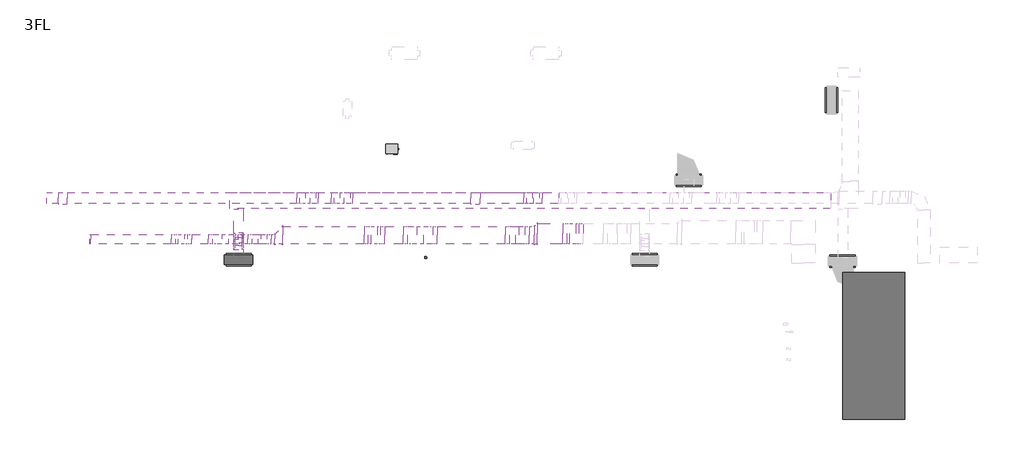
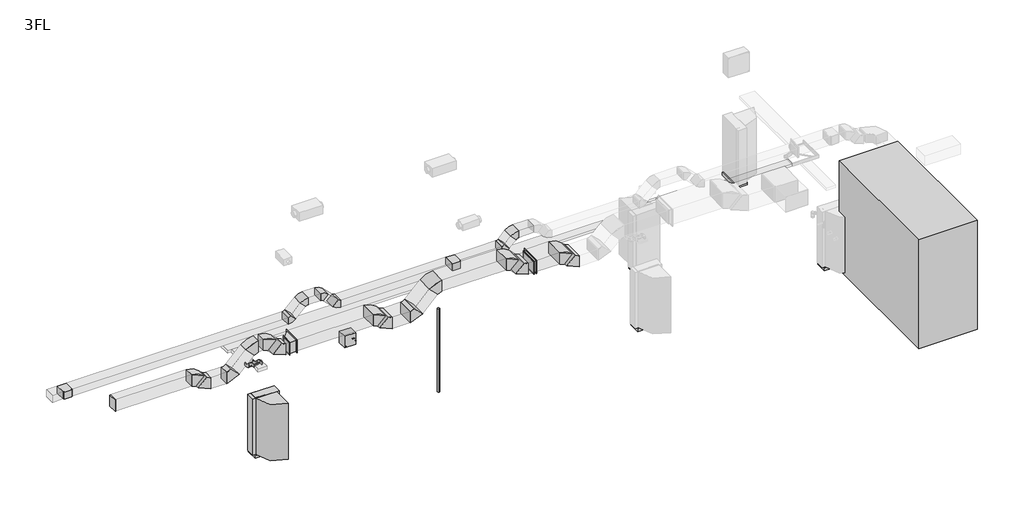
# One storey, part 1 of 2: 25 duct fittings, 25 duct segments, 7 proxies, 4 cable carrier segments, 2 cable carrier fittings, 1 electric distribution board, 1 pipe segment, 1 sanitary terminal.
"""IFC4 building model written with IfcOpenShell, lengths in millimetres."""

from ifc_helpers import new_model, si_unit, point, frame, frame_2d, origin, place, context, project, spatial, polyline, circle_curve, trimmed, segment, composite_curve, outline, extrude, transform, mapped, element, save
from components import specialty_equipment_491e8242, specialty_equipment_278ae101, specialty_equipment_f236d95e, cable_carrier_fitting_edf0bd9d, cable_carrier_fitting_9c4a5b13, common_d19d567b, common_31d43736, common_1_0_w_334f4966, common_1_0_w_7135a4aa, common_1_0_w_6671b1d5, common_1_0_w_68f2167f, common_45_deg_045d3efe, common_45_deg_b0ac0206, electric_distribution_board_7d68dc5e, sanitary_terminal_20l_5d2d8bf7

model = new_model("IFC4")

# Units and contexts
model_context = context("Model", 3, world=origin())
ifc_project = project(units=[si_unit("LENGTHUNIT", "METRE", prefix="MILLI")], contexts=[model_context])

# Site, building, storey
site = spatial("IfcSite", under=ifc_project)
building = spatial("IfcBuilding", under=site)
storey = spatial("IfcBuildingStorey", under=building, Name="3FL", Elevation=8200.0)

# Proxies
placement = place(None, origin())
specialty_equipment_shape = specialty_equipment_491e8242(model_context)
element("IfcBuildingElementProxy", 1, Name="機械基礎(電気) : 機械基礎(電気)", ObjectType="機械基礎(電気) : 機械基礎(電気)", at=placement, inside=storey, context=model_context, shape_type="MappedRepresentation", body=[
    mapped(specialty_equipment_shape, transform((7976.054693, 13290.0, 8200.0), x_axis=(1.0, 0.0, 0.0), y_axis=(0.0, 1.0, 0.0), z_axis=(0.0, 0.0, 1.0))),
])
element("IfcBuildingElementProxy", 2, Name="機械基礎(電気) : 機械基礎(電気)", ObjectType="機械基礎(電気) : 機械基礎(電気)", at=placement, inside=storey, context=model_context, shape_type="MappedRepresentation", body=[
    mapped(specialty_equipment_shape, transform((20943.221875, 13290.0, 8200.0), x_axis=(1.0, 0.0, 0.0), y_axis=(0.0, 1.0, 0.0), z_axis=(0.0, 0.0, 1.0))),
])
element("IfcBuildingElementProxy", 3, Name="機械基礎(電気) : 機械基礎(電気)", ObjectType="機械基礎(電気) : 機械基礎(電気)", at=placement, inside=storey, context=model_context, shape_type="MappedRepresentation", body=[
    mapped(specialty_equipment_shape, transform((22340.0, 15828.4000135, 8200.0), x_axis=(-1.0, 0.0, 0.0), y_axis=(0.0, -1.0, 0.0), z_axis=(0.0, 0.0, 1.0))),
])
element("IfcBuildingElementProxy", 4, Name="機械基礎(電気) : 機械基礎(電気)", ObjectType="機械基礎(電気) : 機械基礎(電気)", at=placement, inside=storey, context=model_context, shape_type="MappedRepresentation", body=[
    mapped(specialty_equipment_shape, transform((26900.0, 18391.8647061, 8200.0), x_axis=(0.0, 1.0, 0.0), y_axis=(-1.0, 0.0, 0.0), z_axis=(0.0, 0.0, 1.0))),
])
element("IfcBuildingElementProxy", 5, Name="機械基礎(電気) : 機械基礎(電気)", ObjectType="機械基礎(電気) : 機械基礎(電気)", at=placement, inside=storey, context=model_context, shape_type="MappedRepresentation", body=[
    mapped(specialty_equipment_shape, transform((27251.5347452, 13239.3406888, 8200.0), x_axis=(1.0, 0.0, 0.0), y_axis=(0.0, 1.0, 0.0), z_axis=(0.0, 0.0, 1.0))),
])
specialty_equipment_2_shape = specialty_equipment_278ae101(model_context)
element("IfcBuildingElementProxy", 6, Name="機械基礎 : 機械基礎", ObjectType="機械基礎 : 機械基礎", at=placement, inside=storey, context=model_context, shape_type="MappedRepresentation", body=[
    mapped(specialty_equipment_2_shape, transform((28500.0, 10740.0, 8200.0), x_axis=(0.0, -1.0, 0.0), y_axis=(1.0, 0.0, 0.0), z_axis=(0.0, 0.0, 1.0))),
])
specialty_equipment_3_shape = specialty_equipment_f236d95e(model_context)
element("IfcBuildingElementProxy", 7, Name="サービススペース : サービススペース", ObjectType="サービススペース : サービススペース", at=placement, inside=storey, context=model_context, shape_type="MappedRepresentation", body=[
    mapped(specialty_equipment_3_shape, transform((28250.0, 10540.0, 10156.0), x_axis=(0.0, -1.0, 0.0), y_axis=(1.0, 0.0, 0.0), z_axis=(0.0, 0.0, 1.0))),
])

# Cable carrier fittings
cable_carrier_fitting_shape = cable_carrier_fitting_edf0bd9d(model_context)
element("IfcCableCarrierFitting", 8, ObjectType="Common_はしご垂直内側曲げ : 03 強電_低圧", at=placement, inside=storey, context=model_context, shape_type="MappedRepresentation", body=[
    mapped(cable_carrier_fitting_shape, transform((7976.054693, 14010.0, 10850.0), x_axis=(0.0, 0.7071067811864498, -0.7071067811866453), y_axis=(0.0, 0.7071067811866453, 0.7071067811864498), z_axis=(1.0, 0.0, 0.0))),
])
cable_carrier_fitting_2_shape = cable_carrier_fitting_9c4a5b13(model_context)
element("IfcCableCarrierFitting", 9, ObjectType="Common_はしご垂直外側曲げ : 03 強電_低圧", at=placement, inside=storey, context=model_context, shape_type="MappedRepresentation", body=[
    mapped(cable_carrier_fitting_2_shape, transform((7976.054693, 13760.0, 11100.0), x_axis=(0.0, -0.7071067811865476, 0.7071067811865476), y_axis=(0.0, -0.7071067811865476, -0.7071067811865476), z_axis=(1.0, 0.0, 0.0))),
])

# Cable carrier segments
element("IfcCableCarrierSegment", 10, ObjectType="03 強電_低圧", at=placement, inside=storey, context=model_context, shape_type="SweptSolid", body=[
    extrude(outline(polyline([(8126.054693, 14147.9898987), (7826.054693, 14147.9898987), (7826.054693, 14910.0), (8126.054693, 14910.0), (8126.054693, 14147.9898987)])), frame((0.0, 0.0, 10800.0), z_axis=(0.0, 0.0, 1.0), x_axis=(1.0, 0.0, 0.0)), (0.0, 0.0, 1.0), 100.0),
])
element("IfcCableCarrierSegment", 11, ObjectType="03 強電_低圧", at=placement, inside=storey, context=model_context, shape_type="SweptSolid", body=[
    extrude(outline(polyline([(0.0, -300.0), (0.0, 0.0), (77.5735931, 0.0), (77.5735931, -300.0), (0.0, -300.0)])), frame((8126.054693, 13877.0710678, 10912.2182541), z_axis=(0.0, 0.7071067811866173, 0.7071067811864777), x_axis=(0.0, -0.7071067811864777, 0.7071067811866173)), (0.0, 0.0, 1.0), 100.0),
])
element("IfcCableCarrierSegment", 12, ObjectType="03 強電_低圧", at=placement, inside=storey, context=model_context, shape_type="SweptSolid", body=[
    extrude(outline(polyline([(7826.054693, 13622.0101013), (8126.054693, 13622.0101013), (8126.054693, 13349.3323091), (7826.054693, 13349.3323091), (7826.054693, 13622.0101013)])), frame((0.0, 0.0, 11050.0), z_axis=(0.0, 0.0, 1.0), x_axis=(1.0, 0.0, 0.0)), (0.0, 0.0, 1.0), 100.0),
])
element("IfcCableCarrierSegment", 13, ObjectType="03 強電_低圧", at=placement, inside=storey, context=model_context, shape_type="SweptSolid", body=[
    extrude(outline(polyline([(26870.3826289, 15430.0), (26870.3826289, 14930.0), (7701.5748089, 14930.0), (7701.5748089, 15430.0), (26870.3826289, 15430.0)])), frame((0.0, 0.0, 10800.0), z_axis=(0.0, 0.0, 1.0), x_axis=(1.0, 0.0, 0.0)), (0.0, 0.0, 1.0), 100.0),
])

# Duct fittings
common_shape = common_d19d567b(model_context)
element("IfcDuctFitting", 14, ObjectType="081_角型エンドキャップ : Common", at=placement, inside=storey, context=model_context, shape_type="MappedRepresentation", body=[
    mapped(common_shape, transform((3254.3145751, 13950.0, 11175.0), x_axis=(-1.0, 0.0, 0.0), y_axis=(0.0, -1.0, 0.0), z_axis=(0.0, 0.0, 1.0))),
])
common_2_shape = common_31d43736(model_context)
element("IfcDuctFitting", 15, ObjectType="022_角形片側分岐 : Common", at=placement, inside=storey, context=model_context, shape_type="MappedRepresentation", body=[
    mapped(common_2_shape, transform((2364.375, 15255.0, 11125.0), x_axis=(1.0, 0.0, 0.0), y_axis=(0.0, 1.0, 0.0), z_axis=(0.0, 0.0, 1.0))),
])
element("IfcDuctFitting", 16, ObjectType="022_角形片側分岐 : Common", at=placement, inside=storey, context=model_context, shape_type="MappedRepresentation", body=[
    mapped(common_2_shape, transform((15534.375, 15255.0, 11125.0), x_axis=(1.0, 0.0, 0.0), y_axis=(0.0, 1.0, 0.0), z_axis=(0.0, 0.0, 1.0))),
])
common_1_0_w_shape = common_1_0_w_334f4966(model_context)
element("IfcDuctFitting", 17, ObjectType="011_角型エルボ - 半径 : Common 1.0 W", at=placement, inside=storey, context=model_context, shape_type="MappedRepresentation", body=[
    mapped(common_1_0_w_shape, transform((5988.3327707, 13950.0, 11175.0), x_axis=(-0.7071067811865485, 0.0, 0.7071067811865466), y_axis=(-0.7071067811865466, 0.0, -0.7071067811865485), z_axis=(0.0, -1.0, 0.0))),
])
element("IfcDuctFitting", 18, ObjectType="011_角型エルボ - 半径 : Common 1.0 W", at=placement, inside=storey, context=model_context, shape_type="MappedRepresentation", body=[
    mapped(common_1_0_w_shape, transform((6313.3327707, 13950.0, 10850.0), x_axis=(0.7071067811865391, 0.0, -0.707106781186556), y_axis=(0.707106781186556, 0.0, 0.7071067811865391), z_axis=(0.0, -1.0, 0.0))),
])
element("IfcDuctFitting", 19, ObjectType="011_角型エルボ - 半径 : Common 1.0 W", at=placement, inside=storey, context=model_context, shape_type="MappedRepresentation", body=[
    mapped(common_1_0_w_shape, transform((8854.9534735, 13950.0, 11175.0), x_axis=(-1.0, 0.0, 0.0), y_axis=(0.0, 0.0, 1.0), z_axis=(0.0, 1.0, 0.0))),
])
element("IfcDuctFitting", 20, ObjectType="011_角型エルボ - 半径 : Common 1.0 W", at=placement, inside=storey, context=model_context, shape_type="MappedRepresentation", body=[
    mapped(common_1_0_w_shape, transform((8429.9534735, 13950.0, 11600.0), x_axis=(-0.70710678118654, 0.0, 0.707106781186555), y_axis=(-0.707106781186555, 0.0, -0.70710678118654), z_axis=(0.0, -1.0, 0.0))),
])
element("IfcDuctFitting", 21, ObjectType="011_角型エルボ - 半径 : Common 1.0 W", at=placement, inside=storey, context=model_context, shape_type="MappedRepresentation", body=[
    mapped(common_1_0_w_shape, transform((7927.4719472, 13950.0, 11600.0), x_axis=(-1.0, 0.0, 0.0), y_axis=(0.0, 0.0, -1.0), z_axis=(0.0, -1.0, 0.0))),
])
element("IfcDuctFitting", 22, ObjectType="011_角型エルボ - 半径 : Common 1.0 W", at=placement, inside=storey, context=model_context, shape_type="MappedRepresentation", body=[
    mapped(common_1_0_w_shape, transform((7177.4719472, 13950.0, 10850.0), x_axis=(1.0, 0.0, 0.0), y_axis=(0.0, 0.0, 1.0), z_axis=(0.0, -1.0, 0.0))),
])
common_1_0_w_2_shape = common_1_0_w_7135a4aa(model_context)
element("IfcDuctFitting", 23, ObjectType="011_角型エルボ - 半径 : Common 1.0 W", at=placement, inside=storey, context=model_context, shape_type="MappedRepresentation", body=[
    mapped(common_1_0_w_2_shape, transform((18809.3145751, 14125.0, 10850.0), x_axis=(-1.0, 0.0, 0.0), y_axis=(0.0, 0.0, 1.0), z_axis=(0.0, 1.0, 0.0))),
])
element("IfcDuctFitting", 24, ObjectType="011_角型エルボ - 半径 : Common 1.0 W", at=placement, inside=storey, context=model_context, shape_type="MappedRepresentation", body=[
    mapped(common_1_0_w_2_shape, transform((18484.3145751, 14125.0, 11175.0), x_axis=(-0.7071067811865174, 0.0, 0.7071067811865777), y_axis=(-0.7071067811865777, 0.0, -0.7071067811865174), z_axis=(0.0, -1.0, 0.0))),
])
common_1_0_w_3_shape = common_1_0_w_6671b1d5(model_context)
element("IfcDuctFitting", 25, ObjectType="011_角型エルボ - 半径 : Common 1.0 W", at=placement, inside=storey, context=model_context, shape_type="MappedRepresentation", body=[
    mapped(common_1_0_w_3_shape, transform((13399.3733317, 14075.0, 10850.0), x_axis=(1.0, 0.0, 0.0), y_axis=(0.0, 0.0, 1.0), z_axis=(0.0, -1.0, 0.0))),
])
element("IfcDuctFitting", 26, ObjectType="011_角型エルボ - 半径 : Common 1.0 W", at=placement, inside=storey, context=model_context, shape_type="MappedRepresentation", body=[
    mapped(common_1_0_w_3_shape, transform((12471.4205038, 14075.0, 10850.0), x_axis=(-1.0, 0.0, 0.0), y_axis=(0.0, 0.0, 1.0), z_axis=(0.0, 1.0, 0.0))),
])
element("IfcDuctFitting", 27, ObjectType="011_角型エルボ - 半径 : Common 1.0 W", at=placement, inside=storey, context=model_context, shape_type="MappedRepresentation", body=[
    mapped(common_1_0_w_3_shape, transform((12146.4205038, 14075.0, 11175.0), x_axis=(-0.7071067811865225, 0.0, 0.7071067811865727), y_axis=(-0.7071067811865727, 0.0, -0.7071067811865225), z_axis=(0.0, -1.0, 0.0))),
])
element("IfcDuctFitting", 28, ObjectType="011_角型エルボ - 半径 : Common 1.0 W", at=placement, inside=storey, context=model_context, shape_type="MappedRepresentation", body=[
    mapped(common_1_0_w_3_shape, transform((14149.3733317, 14075.0, 11600.0), x_axis=(0.7071067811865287, 0.0, 0.7071067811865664), y_axis=(0.7071067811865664, 0.0, -0.7071067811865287), z_axis=(0.0, 1.0, 0.0))),
])
element("IfcDuctFitting", 29, ObjectType="011_角型エルボ - 半径 : Common 1.0 W", at=placement, inside=storey, context=model_context, shape_type="MappedRepresentation", body=[
    mapped(common_1_0_w_3_shape, transform((16658.0037527, 14075.0, 11600.0), x_axis=(1.0, 0.0, 0.0), y_axis=(0.0, 0.0, -1.0), z_axis=(0.0, 1.0, 0.0))),
])
element("IfcDuctFitting", 30, ObjectType="011_角型エルボ - 半径 : Common 1.0 W", at=placement, inside=storey, context=model_context, shape_type="MappedRepresentation", body=[
    mapped(common_1_0_w_3_shape, transform((17083.0037527, 14075.0, 11175.0), x_axis=(-1.0, 0.0, 0.0), y_axis=(0.0, 0.0, 1.0), z_axis=(0.0, 1.0, 0.0))),
])
common_1_0_w_4_shape = common_1_0_w_68f2167f(model_context)
element("IfcDuctFitting", 31, ObjectType="011_角型エルボ - 半径 : Common 1.0 W", at=placement, inside=storey, context=model_context, shape_type="MappedRepresentation", body=[
    mapped(common_1_0_w_4_shape, transform((11517.9771158, 15255.0, 11125.0), x_axis=(0.7071067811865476, 0.0, -0.7071067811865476), y_axis=(0.7071067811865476, 0.0, 0.7071067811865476), z_axis=(0.0, -1.0, 0.0))),
])
element("IfcDuctFitting", 32, ObjectType="011_角型エルボ - 半径 : Common 1.0 W", at=placement, inside=storey, context=model_context, shape_type="MappedRepresentation", body=[
    mapped(common_1_0_w_4_shape, transform((10418.7379014, 15255.0, 11600.0), x_axis=(0.7071067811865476, 0.0, 0.7071067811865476), y_axis=(0.7071067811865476, 0.0, -0.7071067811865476), z_axis=(0.0, 1.0, 0.0))),
])
element("IfcDuctFitting", 33, ObjectType="011_角型エルボ - 半径 : Common 1.0 W", at=placement, inside=storey, context=model_context, shape_type="MappedRepresentation", body=[
    mapped(common_1_0_w_4_shape, transform((11042.9771158, 15255.0, 11600.0), x_axis=(-0.7071067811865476, 0.0, 0.7071067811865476), y_axis=(-0.7071067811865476, 0.0, -0.7071067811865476), z_axis=(0.0, -1.0, 0.0))),
])
element("IfcDuctFitting", 34, ObjectType="011_角型エルボ - 半径 : Common 1.0 W", at=placement, inside=storey, context=model_context, shape_type="MappedRepresentation", body=[
    mapped(common_1_0_w_4_shape, transform((9943.7379014, 15255.0, 11125.0), x_axis=(-0.7071067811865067, 0.0, -0.7071067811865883), y_axis=(-0.7071067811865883, 0.0, 0.7071067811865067), z_axis=(0.0, 1.0, 0.0))),
])
element("IfcDuctFitting", 35, ObjectType="011_角型エルボ - 半径 : Common 1.0 W", at=placement, inside=storey, context=model_context, shape_type="MappedRepresentation", body=[
    mapped(common_1_0_w_4_shape, transform((17181.6393093, 15255.0, 11125.0), x_axis=(1.0, 0.0, 0.0), y_axis=(0.0, 0.0, 1.0), z_axis=(0.0, -1.0, 0.0))),
])
element("IfcDuctFitting", 36, ObjectType="011_角型エルボ - 半径 : Common 1.0 W", at=placement, inside=storey, context=model_context, shape_type="MappedRepresentation", body=[
    mapped(common_1_0_w_4_shape, transform((17556.6393093, 15255.0, 11500.0), x_axis=(-1.0, 0.0, 0.0), y_axis=(0.0, 0.0, -1.0), z_axis=(0.0, -1.0, 0.0))),
])
common_45_deg_shape = common_45_deg_045d3efe(model_context)
element("IfcDuctFitting", 37, ObjectType="041_角型置換 - フランジ - 角度 : Common 45 deg", at=placement, inside=storey, context=model_context, shape_type="MappedRepresentation", body=[
    mapped(common_45_deg_shape, transform((9133.340098, 13950.0, 11175.0), x_axis=(1.0, 0.0, 0.0), y_axis=(0.0, 1.0, 0.0), z_axis=(0.0, 0.0, 1.0))),
])
common_45_deg_2_shape = common_45_deg_b0ac0206(model_context)
element("IfcDuctFitting", 38, ObjectType="041_角型置換 - フランジ - 角度 : Common 45 deg", at=placement, inside=storey, context=model_context, shape_type="MappedRepresentation", body=[
    mapped(common_45_deg_2_shape, transform((17413.6309029, 14075.0, 11175.0), x_axis=(1.0, 0.0, 0.0), y_axis=(0.0, 1.0, 0.0), z_axis=(0.0, 0.0, 1.0))),
])

# Duct segments
element("IfcDuctSegment", 39, ObjectType="00_角タップ", at=placement, inside=storey, context=model_context, shape_type="SweptSolid", body=[
    extrude(outline(polyline([(18318.6291501, 14450.0), (18318.6291501, 13800.0), (17513.6309029, 13800.0), (17513.6309029, 14450.0), (18318.6291501, 14450.0)])), frame((0.0, 0.0, 10975.0), z_axis=(0.0, 0.0, 1.0), x_axis=(1.0, 0.0, 0.0)), (0.0, 0.0, 1.0), 400.0),
])
element("IfcDuctSegment", 40, ObjectType="00_角タップ", at=placement, inside=storey, context=model_context, shape_type="SweptSolid", body=[
    extrude(outline(polyline([(12637.1059288, 13800.0), (12637.1059288, 14350.0), (13233.6879068, 14350.0), (13233.6879068, 13800.0), (12637.1059288, 13800.0)])), frame((0.0, 0.0, 10650.0), z_axis=(0.0, 0.0, 1.0), x_axis=(1.0, 0.0, 0.0)), (0.0, 0.0, 1.0), 400.0),
])
element("IfcDuctSegment", 41, ObjectType="00_角タップ", at=placement, inside=storey, context=model_context, shape_type="SweptSolid", body=[
    extrude(outline(polyline([(17248.6891777, 13800.0), (17248.6891777, 14350.0), (17413.6309029, 14350.0), (17413.6309029, 13800.0), (17248.6891777, 13800.0)])), frame((0.0, 0.0, 10975.0), z_axis=(0.0, 0.0, 1.0), x_axis=(1.0, 0.0, 0.0)), (0.0, 0.0, 1.0), 400.0),
])
element("IfcDuctSegment", 42, ObjectType="00_角タップ", at=placement, inside=storey, context=model_context, shape_type="SweptSolid", body=[
    extrude(outline(polyline([(5822.6473458, 14100.0), (5822.6473458, 13800.0), (3254.3145751, 13800.0), (3254.3145751, 14100.0), (5822.6473458, 14100.0)])), frame((0.0, 0.0, 10975.0), z_axis=(0.0, 0.0, 1.0), x_axis=(1.0, 0.0, 0.0)), (0.0, 0.0, 1.0), 400.0),
])
element("IfcDuctSegment", 43, ObjectType="00_角タップ", at=placement, inside=storey, context=model_context, shape_type="SweptSolid", body=[
    extrude(outline(polyline([(199.9999999, 615.0367627), (199.9999999, 65.0367627), (-200.0000001, 65.0367627), (-200.0000001, 615.0367627), (199.9999999, 615.0367627)])), frame((13516.5306193, 13734.9632373, 10967.1572875), z_axis=(0.7071067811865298, 0.0, 0.7071067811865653), x_axis=(0.7071067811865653, 0.0, -0.7071067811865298)), (0.0, 0.0, 1.0), 729.2893219),
])
element("IfcDuctSegment", 44, ObjectType="00_角タップ", at=placement, inside=storey, context=model_context, shape_type="SweptSolid", body=[
    extrude(outline(polyline([(0.0, -550.0), (0.0, 0.0), (128.2485578, 0.0), (128.2485578, -550.0), (0.0, -550.0)])), frame((12212.84186, 13800.0, 10825.7359313), z_axis=(0.7071067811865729, 0.0, 0.7071067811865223), x_axis=(-0.7071067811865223, 0.0, 0.7071067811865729)), (0.0, 0.0, 1.0), 400.0),
])
element("IfcDuctSegment", 45, ObjectType="00_角タップ", at=placement, inside=storey, context=model_context, shape_type="SweptSolid", body=[
    extrude(outline(polyline([(7011.7865223, 14100.0), (7011.7865223, 13800.0), (6479.0181957, 13800.0), (6479.0181957, 14100.0), (7011.7865223, 14100.0)])), frame((0.0, 0.0, 10650.0), z_axis=(0.0, 0.0, 1.0), x_axis=(1.0, 0.0, 0.0)), (0.0, 0.0, 1.0), 400.0),
])
element("IfcDuctSegment", 46, ObjectType="00_角タップ", at=placement, inside=storey, context=model_context, shape_type="SweptSolid", body=[
    extrude(outline(polyline([(9020.6388984, 13800.0), (9020.6388984, 14100.0), (9133.340098, 14100.0), (9133.340098, 13800.0), (9020.6388984, 13800.0)])), frame((0.0, 0.0, 10975.0), z_axis=(0.0, 0.0, 1.0), x_axis=(1.0, 0.0, 0.0)), (0.0, 0.0, 1.0), 400.0),
])
element("IfcDuctSegment", 47, ObjectType="00_角タップ", at=placement, inside=storey, context=model_context, shape_type="SweptSolid", body=[
    extrude(outline(polyline([(0.0, -300.0), (0.0, 0.0), (128.2485579, 0.0), (128.2485579, -300.0), (0.0, -300.0)])), frame((6054.754127, 13800.0, 10825.7359313), z_axis=(0.7071067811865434, 0.0, 0.7071067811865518), x_axis=(-0.7071067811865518, 0.0, 0.7071067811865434)), (0.0, 0.0, 1.0), 400.0),
])
element("IfcDuctSegment", 48, ObjectType="00_角タップ", at=placement, inside=storey, context=model_context, shape_type="SweptSolid", body=[
    extrude(outline(polyline([(199.9999999, -400.0), (-200.0000001, -400.0), (-200.0000001, -100.0), (199.9999999, -100.0), (199.9999999, -400.0)])), frame((7294.6292348, 14200.0, 10967.1572875), z_axis=(0.7071067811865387, 0.0, 0.7071067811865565), x_axis=(0.7071067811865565, 0.0, -0.7071067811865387)), (0.0, 0.0, 1.0), 729.2893219),
])
element("IfcDuctSegment", 49, ObjectType="00_角タップ", at=placement, inside=storey, context=model_context, shape_type="SweptSolid", body=[
    extrude(outline(polyline([(11980.7350789, 14350.0), (11980.7350789, 13800.0), (9383.340098, 13800.0), (9383.340098, 14350.0), (11980.7350789, 14350.0)])), frame((0.0, 0.0, 10975.0), z_axis=(0.0, 0.0, 1.0), x_axis=(1.0, 0.0, 0.0)), (0.0, 0.0, 1.0), 400.0),
])
element("IfcDuctSegment", 50, ObjectType="00_角タップ", at=placement, inside=storey, context=model_context, shape_type="SweptSolid", body=[
    extrude(outline(polyline([(0.0, -650.0), (0.0, 0.0), (128.2485579, 0.0), (128.2485579, -650.0), (0.0, -650.0)])), frame((18550.7359313, 13800.0, 10825.7359313), z_axis=(0.7071067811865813, 0.0, 0.7071067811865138), x_axis=(-0.7071067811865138, 0.0, 0.7071067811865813)), (0.0, 0.0, 1.0), 400.0),
])
element("IfcDuctSegment", 51, ObjectType="00_角ティー", at=placement, inside=storey, context=model_context, shape_type="SweptSolid", body=[
    extrude(outline(polyline([(2214.375, 15430.0), (2214.375, 15080.0), (1847.1825407, 15080.0), (1847.1825407, 15430.0), (2214.375, 15430.0)])), frame((0.0, 0.0, 11000.0), z_axis=(0.0, 0.0, 1.0), x_axis=(1.0, 0.0, 0.0)), (0.0, 0.0, 1.0), 250.0),
])
element("IfcDuctSegment", 52, ObjectType="00_角タップ", at=placement, inside=storey, context=model_context, shape_type="SweptSolid", body=[
    extrude(outline(polyline([(10522.291292, 15080.0), (10522.291292, 15430.0), (10939.4237252, 15430.0), (10939.4237252, 15080.0), (10522.291292, 15080.0)])), frame((0.0, 0.0, 11475.0), z_axis=(0.0, 0.0, 1.0), x_axis=(1.0, 0.0, 0.0)), (0.0, 0.0, 1.0), 250.0),
])
element("IfcDuctSegment", 53, ObjectType="00_角タップ", at=placement, inside=storey, context=model_context, shape_type="SweptSolid", body=[
    extrude(outline(polyline([(0.0, -350.0), (0.0, 0.0), (464.6446609, 0.0), (464.6446609, -350.0), (0.0, -350.0)])), frame((11027.8120729, 15430.0, 11438.3883476), z_axis=(0.7071067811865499, 0.0, 0.7071067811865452), x_axis=(0.7071067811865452, 0.0, -0.7071067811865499)), (0.0, 0.0, 1.0), 250.0),
])
element("IfcDuctSegment", 54, ObjectType="00_角タップ", at=placement, inside=storey, context=model_context, shape_type="SweptSolid", body=[
    extrude(outline(polyline([(125.0, -390.0581317), (-125.0, -390.0581317), (-125.0, -40.0581317), (125.0, -40.0581317), (125.0, -390.0581317)])), frame((10016.9612061, 15470.0581317, 11198.2233047), z_axis=(0.7071067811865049, 0.0, 0.7071067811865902), x_axis=(0.7071067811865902, 0.0, -0.7071067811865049)), (0.0, 0.0, 1.0), 464.6446609),
])
element("IfcDuctSegment", 55, ObjectType="00_角タップ", at=placement, inside=storey, context=model_context, shape_type="SweptSolid", body=[
    extrude(outline(polyline([(2514.375, 15080.0), (2514.375, 15430.0), (9840.1845108, 15430.0), (9840.1845108, 15080.0), (2514.375, 15080.0)])), frame((0.0, 0.0, 11000.0), z_axis=(0.0, 0.0, 1.0), x_axis=(1.0, 0.0, 0.0)), (0.0, 0.0, 1.0), 250.0),
])
element("IfcDuctSegment", 56, ObjectType="00_角タップ", at=placement, inside=storey, context=model_context, shape_type="SweptSolid", body=[
    extrude(outline(polyline([(0.0, -300.0), (0.0, 0.0), (269.669914, 0.0), (269.669914, -300.0), (0.0, -300.0)])), frame((8596.3748297, 13800.0, 11150.7359313), z_axis=(0.7071067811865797, 0.0, 0.7071067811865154), x_axis=(-0.7071067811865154, 0.0, 0.7071067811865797)), (0.0, 0.0, 1.0), 400.0),
])
element("IfcDuctSegment", 57, ObjectType="00_角ティー", at=placement, inside=storey, context=model_context, shape_type="SweptSolid", body=[
    extrude(outline(polyline([(11621.5305064, 15080.0), (11621.5305064, 15430.0), (15384.375, 15430.0), (15384.375, 15080.0), (11621.5305064, 15080.0)])), frame((0.0, 0.0, 11000.0), z_axis=(0.0, 0.0, 1.0), x_axis=(1.0, 0.0, 0.0)), (0.0, 0.0, 1.0), 250.0),
])
element("IfcDuctSegment", 58, ObjectType="00_角タップ", at=placement, inside=storey, context=model_context, shape_type="SweptSolid", body=[
    extrude(outline(polyline([(14315.0587567, 13800.0), (14315.0587567, 14350.0), (16492.3183278, 14350.0), (16492.3183278, 13800.0), (14315.0587567, 13800.0)])), frame((0.0, 0.0, 11400.0), z_axis=(0.0, 0.0, 1.0), x_axis=(1.0, 0.0, 0.0)), (0.0, 0.0, 1.0), 400.0),
])
element("IfcDuctSegment", 59, ObjectType="00_角タップ", at=placement, inside=storey, context=model_context, shape_type="SweptSolid", body=[
    extrude(outline(polyline([(0.0, -550.0), (0.0, 0.0), (269.6699141, 0.0), (269.6699141, -550.0), (0.0, -550.0)])), frame((16633.739684, 14350.0, 11341.4213562), z_axis=(0.7071067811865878, 0.0, 0.7071067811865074), x_axis=(0.7071067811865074, 0.0, -0.7071067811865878)), (0.0, 0.0, 1.0), 400.0),
])
element("IfcDuctSegment", 60, ObjectType="00_角タップ", at=placement, inside=storey, context=model_context, shape_type="SweptSolid", body=[
    extrude(outline(polyline([(15684.375, 15080.0), (15684.375, 15430.0), (17078.0859188, 15430.0), (17078.0859188, 15080.0), (15684.375, 15080.0)])), frame((0.0, 0.0, 11000.0), z_axis=(0.0, 0.0, 1.0), x_axis=(1.0, 0.0, 0.0)), (0.0, 0.0, 1.0), 250.0),
])
element("IfcDuctSegment", 61, ObjectType="00_角タップ", at=placement, inside=storey, context=model_context, shape_type="SweptSolid", body=[
    extrude(outline(polyline([(18192.8932188, 15430.0), (18192.8932188, 15080.0), (17660.1926999, 15080.0), (17660.1926999, 15430.0), (18192.8932188, 15430.0)])), frame((0.0, 0.0, 11375.0), z_axis=(0.0, 0.0, 1.0), x_axis=(1.0, 0.0, 0.0)), (0.0, 0.0, 1.0), 250.0),
])
element("IfcDuctSegment", 62, ObjectType="00_角タップ", at=placement, inside=storey, context=model_context, shape_type="SweptSolid", body=[
    extrude(outline(polyline([(124.9999999, 390.0581317), (124.9999999, 40.0581317), (-125.0000001, 40.0581317), (-125.0000001, 390.0581317), (124.9999999, 390.0581317)])), frame((17254.8626141, 15039.9418683, 11198.2233047), z_axis=(0.7071067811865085, 0.0, 0.7071067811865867), x_axis=(0.7071067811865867, 0.0, -0.7071067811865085)), (0.0, 0.0, 1.0), 323.2233047),
])
element("IfcDuctSegment", 63, ObjectType="00_角タップ", at=placement, inside=storey, context=model_context, shape_type="SweptSolid", body=[
    extrude(outline(polyline([(8264.2680485, 14100.0), (8264.2680485, 13800.0), (8093.1573722, 13800.0), (8093.1573722, 14100.0), (8264.2680485, 14100.0)])), frame((0.0, 0.0, 11400.0), z_axis=(0.0, 0.0, 1.0), x_axis=(1.0, 0.0, 0.0)), (0.0, 0.0, 1.0), 400.0),
])

# Electric distribution board
electric_distribution_board_shape = electric_distribution_board_7d68dc5e(model_context)
element("IfcElectricDistributionBoard", 64, ObjectType="21000_OA盤 : 右扉", at=placement, inside=storey, context=model_context, shape_type="MappedRepresentation", body=[
    mapped(electric_distribution_board_shape, transform((7976.054693, 13490.0, 8200.0), x_axis=(1.0, 0.0, 0.0), y_axis=(0.0, 1.0, 0.0), z_axis=(0.0, 0.0, 1.0))),
])

# Pipe segment
element("IfcPipeSegment", 65, ObjectType="00_供給", at=placement, inside=storey, context=model_context, shape_type="SweptSolid", body=[
    extrude(outline(composite_curve([segment(trimmed(circle_curve(frame_2d((13950.0, 13362.0)), 38.15), [point((13911.85, 13362.0))], [point((13950.0, 13400.15))], False, "CARTESIAN"), True, "CONTINUOUS"), segment(trimmed(circle_curve(frame_2d((13950.0, 13362.0)), 38.15), [point((13950.0, 13400.15))], [point((13988.15, 13362.0))], False, "CARTESIAN"), True, "CONTINUOUS"), segment(trimmed(circle_curve(frame_2d((13950.0, 13362.0)), 38.15), [point((13988.15, 13362.0))], [point((13950.0, 13323.85))], False, "CARTESIAN"), True, "CONTINUOUS"), segment(trimmed(circle_curve(frame_2d((13950.0, 13362.0)), 38.15), [point((13950.0, 13323.85))], [point((13911.85, 13362.0))], False, "CARTESIAN"), True, "CONTINUOUS")], self_intersect=False)), frame((0.0, 0.0, 8200.0), z_axis=(0.0, 0.0, 1.0), x_axis=(1.0, 0.0, 0.0)), (0.0, 0.0, 1.0), 2973.0),
])

# Sanitary terminal
sanitary_terminal_20l_shape = sanitary_terminal_20l_5d2d8bf7(model_context)
element("IfcSanitaryTerminal", 66, ObjectType="03080_WHE_貯湯式電気温水器 : 20L", at=placement, inside=storey, context=model_context, shape_type="MappedRepresentation", body=[
    mapped(sanitary_terminal_20l_shape, transform((12680.0, 16830.9435314, 8200.0), x_axis=(0.0, 1.0, 0.0), y_axis=(-1.0, 0.0, 0.0), z_axis=(0.0, 0.0, 1.0))),
])

save(model, "model.ifc")
